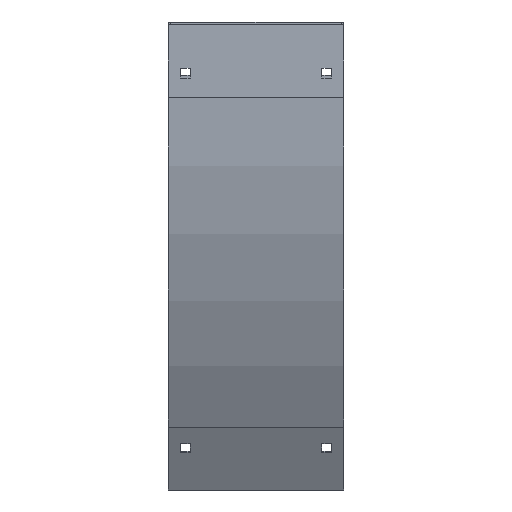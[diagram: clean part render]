
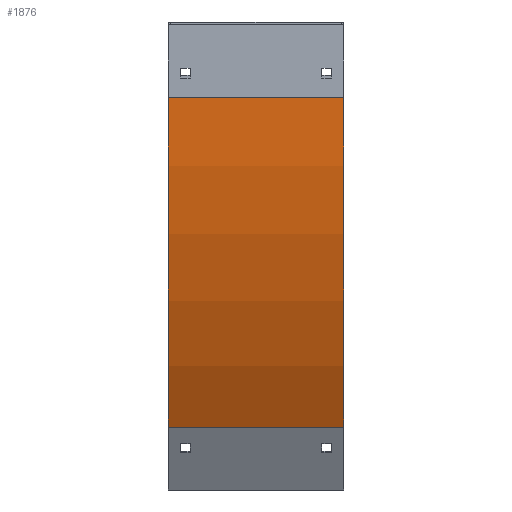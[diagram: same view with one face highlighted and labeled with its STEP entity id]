
A CAD part, left-side view. The second image highlights one B-rep face of the part: STEP entity #1876.
In plain terms, the highlighted cylindrical face has radius 691.388 mm (diameter 1382.78 mm), a partial arc.
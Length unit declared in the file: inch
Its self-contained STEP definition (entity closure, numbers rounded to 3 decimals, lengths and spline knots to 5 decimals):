
#1291=CARTESIAN_POINT('',(0.,-27.11,3.));
#1292=DIRECTION('',(1.,0.,0.));
#1293=DIRECTION('',(0.,1.,0.));
#1294=AXIS2_PLACEMENT_3D('',#1291,#1292,#1293);
#1300=DIRECTION('',(-1.,0.,0.));
#1301=VECTOR('',#1300,7.24);
#1302=CARTESIAN_POINT('',(7.24,0.11,3.));
#1303=LINE('',#1302,#1301);
#1304=CARTESIAN_POINT('',(7.24,-27.11,3.));
#1305=DIRECTION('',(1.,0.,0.));
#1306=DIRECTION('',(0.,1.,0.));
#1307=AXIS2_PLACEMENT_3D('',#1304,#1305,#1306);
#1309=DIRECTION('',(-1.,0.,0.));
#1310=VECTOR('',#1309,7.24);
#1311=CARTESIAN_POINT('',(7.24,-3.53679,16.61));
#1312=LINE('',#1311,#1310);
#1544=CARTESIAN_POINT('',(7.24,0.11,3.));
#1545=CARTESIAN_POINT('',(0.,0.11,3.));
#1546=VERTEX_POINT('',#1544);
#1547=VERTEX_POINT('',#1545);
#1560=CARTESIAN_POINT('',(7.24,-3.53679,16.61));
#1561=CARTESIAN_POINT('',(0.,-3.53679,16.61));
#1562=VERTEX_POINT('',#1560);
#1563=VERTEX_POINT('',#1561);
#1864=CARTESIAN_POINT('',(-1.,-27.11,3.));
#1865=DIRECTION('',(1.,0.,0.));
#1866=DIRECTION('',(0.,-1.,0.));
#1867=AXIS2_PLACEMENT_3D('',#1864,#1865,#1866);
#1868=CYLINDRICAL_SURFACE('',#1867,27.22);
#1869=ORIENTED_EDGE('',*,*,#1688,.F.);
#1870=ORIENTED_EDGE('',*,*,#1731,.T.);
#1872=ORIENTED_EDGE('',*,*,#1871,.T.);
#1873=ORIENTED_EDGE('',*,*,#1850,.F.);
#1874=EDGE_LOOP('',(#1869,#1870,#1872,#1873));
#1875=FACE_OUTER_BOUND('',#1874,.F.);
#1876=ADVANCED_FACE('',(#1875),#1868,.T.);
#1295=CIRCLE('',#1294,27.22);
#1308=CIRCLE('',#1307,27.22);
#1688=EDGE_CURVE('',#1546,#1547,#1303,.T.);
#1731=EDGE_CURVE('',#1546,#1562,#1308,.T.);
#1850=EDGE_CURVE('',#1547,#1563,#1295,.T.);
#1871=EDGE_CURVE('',#1562,#1563,#1312,.T.);
